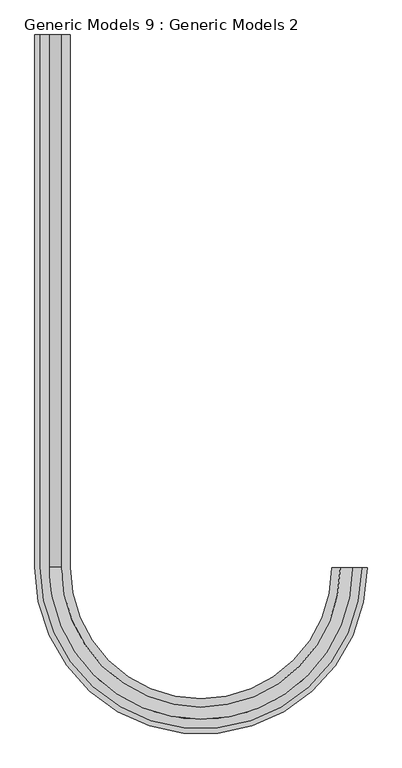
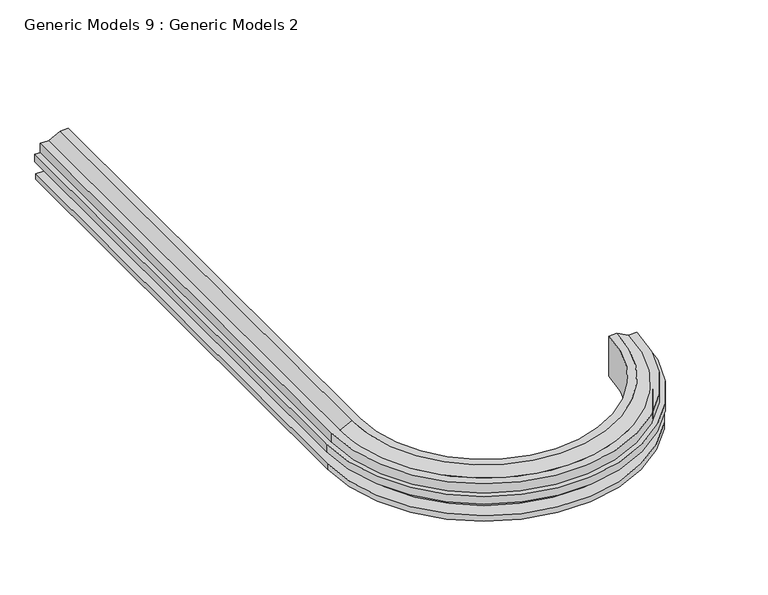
"""IFC4 building model written with IfcOpenShell, lengths in millimetres: proxy geometry, Generic Models 9 : Generic Models 2."""

from ifc_helpers import new_model, si_unit, frame, origin, place, context, project, spatial, polyline, circle_curve, source, transform, mapped, element, save
from ifc_brep_helpers import plane_surface, cylinder_surface, revolved_surface, advanced_brep


def generic_models_9_generic_models_2_f5175b4a(model_context):
    return source(origin(), model_context, "Body", "AdvancedBrep", [
        advanced_brep(
        [(30391.9156187, 24514.8041741, 3725.0), (30521.9156187, 24514.8041741, 3725.0), (30700.1169235, 24514.8041741, 3815.7980999), (30821.2049406, 24514.8041741, 3815.7980999), (30821.2049406, 24514.8041741, 3166.2241464), (30327.3404629, 24514.8041741, 3166.2241464), (30327.3404629, 24514.8041741, 3256.2241464), (30567.3404629, 24514.8041741, 3256.2241464), (30567.3404629, 24514.8041741, 3316.2241464), (30477.3404629, 24514.8041741, 3316.2241464), (30477.3404629, 24514.8041741, 3456.2241464), (30312.3404629, 24514.8041741, 3456.2241464), (30312.3404629, 24514.8041741, 3576.2241464), (30391.9156187, 24514.8041741, 3576.2241464), (35038.1194996, 16815.3459804, 3725.0), (35038.1194996, 16815.3459804, 3576.2241464), (35117.6945417, 16815.2114609, 3576.2241464), (35117.6945417, 16815.2114609, 3456.2241464), (34952.6947774, 16815.4903887, 3456.2241464), (34952.6947774, 16815.4903887, 3316.2241464), (34862.694906, 16815.6425311, 3316.2241464), (34862.694906, 16815.6425311, 3256.2241464), (35102.6945631, 16815.236818, 3256.2241464), (35102.6945631, 16815.236818, 3166.2241464), (34608.8307911, 16816.0716817, 3166.2241464), (34608.8307911, 16816.0716817, 3815.7980999), (34729.9186351, 16815.8669859, 3815.7980999), (34908.1196853, 16815.5657417, 3725.0), (30391.9156504, 16823.041975, 3576.2241464), (30391.9156504, 16823.041975, 3725.0), (30312.340506, 16823.1130949, 3576.2241464), (30312.340506, 16823.1130949, 3456.2241464), (30477.340484, 16822.9656269, 3456.2241464), (30477.340484, 16822.9656269, 3316.2241464), (30567.3404749, 16822.8851898, 3316.2241464), (30567.3404749, 16822.8851898, 3256.2241464), (30327.3405037, 16823.0996887, 3256.2241464), (30327.3405037, 16823.0996887, 3166.2241464), (30821.2049406, 16822.6582995, 3166.2241464), (30821.2049406, 16822.6582995, 3815.7980999), (30700.1169264, 16822.7665214, 3815.7980999), (30521.915635, 16822.925788, 3725.0)],
        [
            (0, 1),
            (1, 2),
            (2, 3),
            (3, 4),
            (4, 5),
            (5, 6),
            (6, 7),
            (7, 8),
            (8, 9),
            (9, 10),
            (10, 11),
            (11, 12),
            (12, 13),
            (13, 0),
            (14, 15),
            (15, 16),
            (16, 17),
            (17, 18),
            (18, 19),
            (19, 20),
            (20, 21),
            (21, 22),
            (22, 23),
            (23, 24),
            (24, 25),
            (25, 26),
            (26, 27),
            (27, 14),
            (28, 15, circle_curve(frame((32715.0177061, 16819.2731229, 3576.2241464), z_axis=(0.0, 0.0, 1.0), x_axis=(0.9999985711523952, -0.0016904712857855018, 0.0)), 2323.1051129)),
            (14, 29, circle_curve(frame((32715.0177061, 16819.2731229, 3725.0), z_axis=(0.0, 0.0, -1.0), x_axis=(0.9999985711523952, -0.0016904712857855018, 0.0)), 2323.1051129)),
            (29, 28),
            (30, 16, circle_curve(frame((32715.0177061, 16819.2731229, 3576.2241464), z_axis=(0.0, 0.0, 1.0), x_axis=(0.9999985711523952, -0.0016904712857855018, 0.0)), 2402.6802687)),
            (28, 13),
            (12, 30),
            (31, 17, circle_curve(frame((32715.0177061, 16819.2731229, 3456.2241464), z_axis=(0.0, 0.0, 1.0), x_axis=(0.9999985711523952, -0.0016904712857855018, 0.0)), 2402.6802687)),
            (30, 31),
            (32, 18, circle_curve(frame((32715.0177061, 16819.2731229, 3456.2241464), z_axis=(0.0, 0.0, 1.0), x_axis=(0.9999985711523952, -0.0016904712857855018, 0.0)), 2237.6802687)),
            (31, 11),
            (10, 32),
            (33, 19, circle_curve(frame((32715.0177061, 16819.2731229, 3316.2241464), z_axis=(0.0, 0.0, 1.0), x_axis=(0.9999985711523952, -0.0016904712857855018, 0.0)), 2237.6802687)),
            (32, 33),
            (34, 20, circle_curve(frame((32715.0177061, 16819.2731229, 3316.2241464), z_axis=(0.0, 0.0, 1.0), x_axis=(0.9999985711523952, -0.0016904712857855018, 0.0)), 2147.6802687)),
            (33, 9),
            (8, 34),
            (35, 21, circle_curve(frame((32715.0177061, 16819.2731229, 3256.2241464), z_axis=(0.0, 0.0, 1.0), x_axis=(0.9999985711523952, -0.0016904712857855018, 0.0)), 2147.6802687)),
            (34, 35),
            (36, 22, circle_curve(frame((32715.0177061, 16819.2731229, 3256.2241464), z_axis=(0.0, 0.0, 1.0), x_axis=(0.9999985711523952, -0.0016904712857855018, 0.0)), 2387.6802687)),
            (35, 7),
            (6, 36),
            (37, 23, circle_curve(frame((32715.0177061, 16819.2731229, 3166.2241464), z_axis=(0.0, 0.0, 1.0), x_axis=(0.9999985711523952, -0.0016904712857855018, 0.0)), 2387.6802687)),
            (36, 37),
            (38, 24, circle_curve(frame((32715.0177061, 16819.2731229, 3166.2241464), z_axis=(0.0, 0.0, 1.0), x_axis=(0.9999985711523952, -0.0016904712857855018, 0.0)), 1893.815791)),
            (37, 5),
            (4, 38),
            (39, 25, circle_curve(frame((32715.0177061, 16819.2731229, 3815.7980999), z_axis=(0.0, 0.0, 1.0), x_axis=(0.9999985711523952, -0.0016904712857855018, 0.0)), 1893.815791)),
            (38, 39),
            (40, 26, circle_curve(frame((32715.0177061, 16819.2731229, 3815.7980999), z_axis=(0.0, 0.0, 1.0), x_axis=(0.9999985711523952, -0.0016904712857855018, 0.0)), 2014.903808)),
            (39, 3),
            (2, 40),
            (41, 27, circle_curve(frame((32715.0177061, 16819.2731229, 3725.0), z_axis=(0.0, 0.0, 1.0), x_axis=(0.9999985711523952, -0.0016904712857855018, 0.0)), 2193.1051129)),
            (40, 41),
            (41, 1),
            (0, 29),
        ],
        [
            plane_surface(frame((30821.2049406, 24514.8041741, 3200.0), z_axis=(0.0, 1.0, 0.0), x_axis=(0.0, 0.0, 1.0))),
            plane_surface(frame((34608.8307911, 16816.0716817, 3200.0), z_axis=(0.0016904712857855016, 0.9999985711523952, 0.0), x_axis=(0.0, 0.0, 1.0))),
            cylinder_surface(frame((32715.0177061, 16819.2731229, 3200.0), z_axis=(0.0, 0.0, -1.0), x_axis=(0.9999985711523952, -0.0016904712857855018, 0.0)), 2323.1051129),
            plane_surface(frame((32715.0177061, 16819.2731229, 3576.2241464), z_axis=(0.0, 0.0, 1.0), x_axis=(0.9999985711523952, -0.0016904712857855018, 0.0))),
            cylinder_surface(frame((32715.0177061, 16819.2731229, 3200.0), z_axis=(0.0, 0.0, -1.0), x_axis=(0.9999985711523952, -0.0016904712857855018, 0.0)), 2402.6802687),
            plane_surface(frame((32715.0177061, 16819.2731229, 3456.2241464), z_axis=(0.0, 0.0, -1.0), x_axis=(0.9999985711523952, -0.0016904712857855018, 0.0))),
            cylinder_surface(frame((32715.0177061, 16819.2731229, 3200.0), z_axis=(0.0, 0.0, -1.0), x_axis=(0.9999985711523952, -0.0016904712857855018, 0.0)), 2237.6802687),
            plane_surface(frame((32715.0177061, 16819.2731229, 3316.2241464), z_axis=(0.0, 0.0, -1.0), x_axis=(0.9999985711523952, -0.0016904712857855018, 0.0))),
            cylinder_surface(frame((32715.0177061, 16819.2731229, 3200.0), z_axis=(0.0, 0.0, -1.0), x_axis=(0.9999985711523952, -0.0016904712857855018, 0.0)), 2147.6802687),
            plane_surface(frame((32715.0177061, 16819.2731229, 3256.2241464), z_axis=(0.0, 0.0, 1.0), x_axis=(0.9999985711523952, -0.0016904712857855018, 0.0))),
            cylinder_surface(frame((32715.0177061, 16819.2731229, 3200.0), z_axis=(0.0, 0.0, -1.0), x_axis=(0.9999985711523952, -0.0016904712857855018, 0.0)), 2387.6802687),
            plane_surface(frame((32715.0177061, 16819.2731229, 3166.2241464), z_axis=(0.0, 0.0, -1.0), x_axis=(0.9999985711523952, -0.0016904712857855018, 0.0))),
            revolved_surface(polyline([(34608.830791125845, 16816.071681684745, 3166.2241464), (34608.830791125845, 16816.071681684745, 3815.7980999)]), (32715.0177061, 16819.2731229, 3200.0), (0.0, 0.0, -1.0)),
            plane_surface(frame((32715.0177061, 16819.2731229, 3815.7980999), z_axis=(0.0, 0.0, 1.0), x_axis=(0.9999985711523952, -0.0016904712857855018, 0.0))),
            revolved_surface(polyline([(34729.9186351, 16815.8669859, 3815.7980999), (34908.1196853, 16815.5657417, 3725.0)]), (32715.0177061, 16819.2731229, 3200.0), (0.0, 0.0, -1.0)),
            plane_surface(frame((32715.0177061, 16819.2731229, 3725.0), z_axis=(0.0, 0.0, 1.0), x_axis=(0.9999985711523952, -0.0016904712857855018, 0.0))),
            plane_surface(frame((30391.9156187, 16823.041975, 3725.0), z_axis=(-1.0, 0.0, 0.0), x_axis=(0.0, 1.0, 0.0))),
            plane_surface(frame((30312.3404629, 16823.1130949, 3576.2241464), z_axis=(-1.0, 0.0, 0.0), x_axis=(0.0, 1.0, 0.0))),
            plane_surface(frame((30477.3404629, 16822.9656269, 3456.2241464), z_axis=(-1.0, 0.0, 0.0), x_axis=(0.0, 1.0, 0.0))),
            plane_surface(frame((30567.3404629, 16822.8851898, 3316.2241464), z_axis=(-1.0, 0.0, 0.0), x_axis=(0.0, 1.0, 0.0))),
            plane_surface(frame((30327.3404629, 16823.0996888, 3256.2241464), z_axis=(-1.0, 0.0, 0.0), x_axis=(0.0, 1.0, 0.0))),
            plane_surface(frame((30821.2049406, 16822.6582995, 3166.2241464), z_axis=(1.0, 0.0, 0.0), x_axis=(0.0, 1.0, 0.0))),
            plane_surface(frame((30700.1169235, 16822.7665214, 3815.7980999), z_axis=(-0.4539904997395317, 0.0, 0.8910065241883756), x_axis=(0.0, 1.0, 0.0))),
        ],
        [
            (0, [[1, 2, 3, 4, 5, 6, 7, 8, 9, 10, 11, 12, 13, 14]]),
            (1, [[15, 16, 17, 18, 19, 20, 21, 22, 23, 24, 25, 26, 27, 28]]),
            (2, [[29, -15, 30, 31]]),
            (3, [[32, -16, -29, 33, -13, 34]]),
            (4, [[35, -17, -32, 36]]),
            (5, [[37, -18, -35, 38, -11, 39]]),
            (6, [[40, -19, -37, 41]]),
            (7, [[42, -20, -40, 43, -9, 44]]),
            (8, [[45, -21, -42, 46]]),
            (9, [[47, -22, -45, 48, -7, 49]]),
            (10, [[50, -23, -47, 51]]),
            (11, [[52, -24, -50, 53, -5, 54]]),
            (12, [[55, -25, -52, 56]]),
            (13, [[57, -26, -55, 58, -3, 59]]),
            (14, [[60, -27, -57, 61]]),
            (15, [[-30, -28, -60, 62, -1, 63]]),
            (16, [[-31, -63, -14, -33]]),
            (17, [[-36, -34, -12, -38]]),
            (18, [[-41, -39, -10, -43]]),
            (19, [[-46, -44, -8, -48]]),
            (20, [[-51, -49, -6, -53]]),
            (21, [[-56, -54, -4, -58]]),
            (22, [[-61, -59, -2, -62]]),
        ],
    ),
    ])


if __name__ == "__main__":
    model = new_model("IFC4")
    model_context = context("Model", 3, world=origin())
    ifc_project = project(units=[si_unit("LENGTHUNIT", "METRE", prefix="MILLI")], contexts=[model_context])
    site = spatial("IfcSite", under=ifc_project)
    building = spatial("IfcBuilding", under=site)
    placement = place(None, origin())
    generic_models_9_generic_models_2_shape = generic_models_9_generic_models_2_f5175b4a(model_context)
    element("IfcBuildingElementProxy", 1, Name="Generic Models 9 : Generic Models 2", ObjectType="Generic Models 9 : Generic Models 2", at=placement, inside=building, context=model_context, shape_type="MappedRepresentation", body=[
        mapped(generic_models_9_generic_models_2_shape, transform((0.0, 0.0, 0.0), x_axis=(1.0, 0.0, 0.0), y_axis=(0.0, 1.0, 0.0), z_axis=(0.0, 0.0, 1.0))),
    ])
    save(model, "model.ifc")
